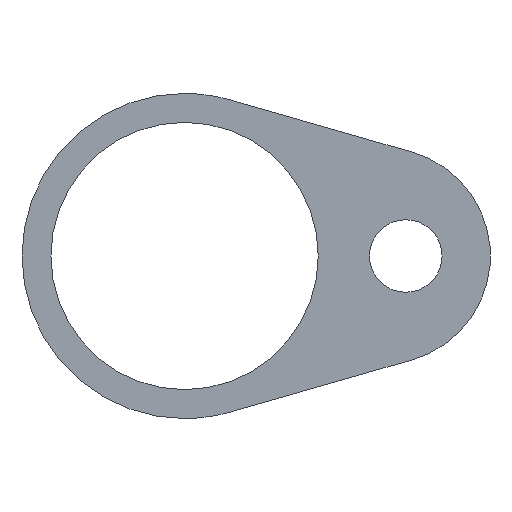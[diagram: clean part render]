
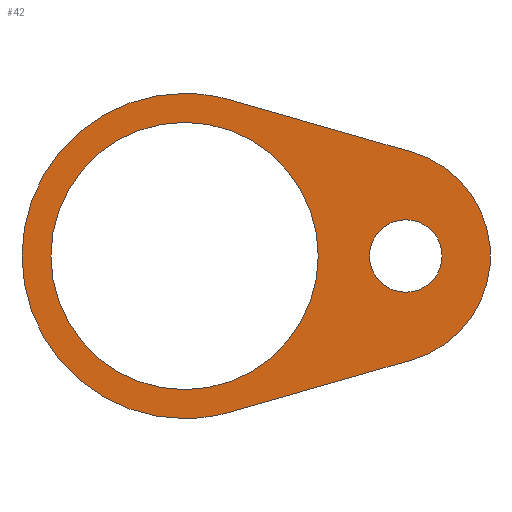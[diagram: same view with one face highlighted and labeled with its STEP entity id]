
A CAD part, front view. The second image highlights one B-rep face of the part: STEP entity #42.
In plain terms, the highlighted planar face has unit normal (0, -1, 0).
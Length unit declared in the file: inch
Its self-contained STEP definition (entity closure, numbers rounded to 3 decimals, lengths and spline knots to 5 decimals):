
#5 = AXIS2_PLACEMENT_3D ( 'NONE', #183, #159, #164 ) ;
#7 = AXIS2_PLACEMENT_3D ( 'NONE', #211, #147, #145 ) ;
#16 = EDGE_CURVE ( 'NONE', #94, #95, #425, .T. ) ;
#21 = EDGE_CURVE ( 'NONE', #95, #93, #418, .T. ) ;
#23 = EDGE_CURVE ( 'NONE', #90, #96, #431, .T. ) ;
#26 = AXIS2_PLACEMENT_3D ( 'NONE', #79, #77, #76 ) ;
#42 = ADVANCED_FACE ( 'NONE', ( #387, #386, #378 ), #265, .F. ) ;
#49 = CIRCLE ( 'NONE', #5, 0.203 ) ;
#56 = LINE ( 'NONE', #144, #57 ) ;
#57 = VECTOR ( 'NONE', #143, 39.37008 ) ;
#60 = CIRCLE ( 'NONE', #7, 0.91 ) ;
#73 = CARTESIAN_POINT ( 'NONE',  ( 0., 0., 0. ) ) ;
#76 = DIRECTION ( 'NONE',  ( 0., 0., 1. ) ) ;
#77 = DIRECTION ( 'NONE',  ( 0., 1., 0. ) ) ;
#79 = CARTESIAN_POINT ( 'NONE',  ( 0., 0., 0. ) ) ;
#90 = VERTEX_POINT ( 'NONE', #201 ) ;
#93 = VERTEX_POINT ( 'NONE', #170 ) ;
#94 = VERTEX_POINT ( 'NONE', #132 ) ;
#95 = VERTEX_POINT ( 'NONE', #266 ) ;
#96 = VERTEX_POINT ( 'NONE', #150 ) ;
#97 = VERTEX_POINT ( 'NONE', #154 ) ;
#103 = VERTEX_POINT ( 'NONE', #118 ) ;
#107 = VERTEX_POINT ( 'NONE', #222 ) ;
#108 = VERTEX_POINT ( 'NONE', #252 ) ;
#109 = VERTEX_POINT ( 'NONE', #126 ) ;
#115 = DIRECTION ( 'NONE',  ( 0., 1., 0. ) ) ;
#118 = CARTESIAN_POINT ( 'NONE',  ( 1.238, 0., 0.203 ) ) ;
#126 = CARTESIAN_POINT ( 'NONE',  ( 0., 0., -0.74803 ) ) ;
#129 = DIRECTION ( 'NONE',  ( 0., 1., 0. ) ) ;
#132 = CARTESIAN_POINT ( 'NONE',  ( 0., 0., -0.91 ) ) ;
#137 = DIRECTION ( 'NONE',  ( 0., 1., 0. ) ) ;
#138 = DIRECTION ( 'NONE',  ( 0., 0., 1. ) ) ;
#142 = CARTESIAN_POINT ( 'NONE',  ( 0., 0., 0. ) ) ;
#143 = DIRECTION ( 'NONE',  ( 0.961, 0., -0.276 ) ) ;
#144 = CARTESIAN_POINT ( 'NONE',  ( 0.25083, 0., 0.87475 ) ) ;
#145 = DIRECTION ( 'NONE',  ( 0., 0., 1. ) ) ;
#147 = DIRECTION ( 'NONE',  ( 0., 1., 0. ) ) ;
#150 = CARTESIAN_POINT ( 'NONE',  ( 0.25083, 0., -0.87475 ) ) ;
#151 = DIRECTION ( 'NONE',  ( 0., 0., 1. ) ) ;
#154 = CARTESIAN_POINT ( 'NONE',  ( 1.27329, 0., 0.58156 ) ) ;
#155 = CARTESIAN_POINT ( 'NONE',  ( 0.25083, 0., -0.87475 ) ) ;
#159 = DIRECTION ( 'NONE',  ( 0., 1., 0. ) ) ;
#164 = DIRECTION ( 'NONE',  ( 0., 0., 1. ) ) ;
#170 = CARTESIAN_POINT ( 'NONE',  ( 0.25083, 0., 0.87475 ) ) ;
#171 = CARTESIAN_POINT ( 'NONE',  ( 1.10653, 0., 0. ) ) ;
#176 = DIRECTION ( 'NONE',  ( 0., 1., 0. ) ) ;
#179 = DIRECTION ( 'NONE',  ( 0., 0., 1. ) ) ;
#183 = CARTESIAN_POINT ( 'NONE',  ( 1.238, 0., 0. ) ) ;
#187 = DIRECTION ( 'NONE',  ( 0., 1., 0. ) ) ;
#191 = CARTESIAN_POINT ( 'NONE',  ( 1.238, 0., 0. ) ) ;
#195 = DIRECTION ( 'NONE',  ( 0., 0., 1. ) ) ;
#198 = DIRECTION ( 'NONE',  ( 0., 0., 1. ) ) ;
#201 = CARTESIAN_POINT ( 'NONE',  ( 1.27329, 0., -0.58156 ) ) ;
#211 = CARTESIAN_POINT ( 'NONE',  ( 0., 0., 0. ) ) ;
#217 = DIRECTION ( 'NONE',  ( -0.961, 0., -0.276 ) ) ;
#222 = CARTESIAN_POINT ( 'NONE',  ( 1.238, 0., -0.203 ) ) ;
#226 = DIRECTION ( 'NONE',  ( 0., 0., 1. ) ) ;
#234 = DIRECTION ( 'NONE',  ( 0., 1., 0. ) ) ;
#252 = CARTESIAN_POINT ( 'NONE',  ( 0., 0., 0.74803 ) ) ;
#257 = CARTESIAN_POINT ( 'NONE',  ( 0., 0., 0. ) ) ;
#265 = PLANE ( 'NONE',  #328 ) ;
#266 = CARTESIAN_POINT ( 'NONE',  ( 0., 0., 0.91 ) ) ;
#284 = CARTESIAN_POINT ( 'NONE',  ( 0., 0., 0. ) ) ;
#288 = AXIS2_PLACEMENT_3D ( 'NONE', #171, #129, #198 ) ;
#291 = EDGE_CURVE ( 'NONE', #108, #109, #359, .T. ) ;
#294 = EDGE_CURVE ( 'NONE', #97, #90, #354, .T. ) ;
#303 = EDGE_CURVE ( 'NONE', #109, #108, #391, .T. ) ;
#305 = AXIS2_PLACEMENT_3D ( 'NONE', #191, #234, #226 ) ;
#307 = EDGE_CURVE ( 'NONE', #107, #103, #360, .T. ) ;
#313 = AXIS2_PLACEMENT_3D ( 'NONE', #73, #187, #195 ) ;
#321 = AXIS2_PLACEMENT_3D ( 'NONE', #142, #137, #179 ) ;
#328 = AXIS2_PLACEMENT_3D ( 'NONE', #284, #115, #151 ) ;
#333 = AXIS2_PLACEMENT_3D ( 'NONE', #257, #176, #138 ) ;
#336 = EDGE_CURVE ( 'NONE', #96, #94, #60, .T. ) ;
#337 = EDGE_CURVE ( 'NONE', #93, #97, #56, .T. ) ;
#338 = EDGE_CURVE ( 'NONE', #103, #107, #49, .T. ) ;
#354 = CIRCLE ( 'NONE', #288, 0.605 ) ;
#359 = CIRCLE ( 'NONE', #333, 0.74803 ) ;
#360 = CIRCLE ( 'NONE', #305, 0.203 ) ;
#378 = FACE_BOUND ( 'NONE', #441, .T. ) ;
#386 = FACE_OUTER_BOUND ( 'NONE', #443, .T. ) ;
#387 = FACE_BOUND ( 'NONE', #440, .T. ) ;
#391 = CIRCLE ( 'NONE', #321, 0.74803 ) ;
#417 = VECTOR ( 'NONE', #217, 39.37008 ) ;
#418 = CIRCLE ( 'NONE', #313, 0.91 ) ;
#425 = CIRCLE ( 'NONE', #26, 0.91 ) ;
#431 = LINE ( 'NONE', #155, #417 ) ;
#440 = EDGE_LOOP ( 'NONE', ( #482, #483 ) ) ;
#441 = EDGE_LOOP ( 'NONE', ( #490, #491 ) ) ;
#443 = EDGE_LOOP ( 'NONE', ( #484, #485, #486, #487, #488, #489 ) ) ;
#482 = ORIENTED_EDGE ( 'NONE', *, *, #303, .T. ) ;
#483 = ORIENTED_EDGE ( 'NONE', *, *, #291, .T. ) ;
#484 = ORIENTED_EDGE ( 'NONE', *, *, #336, .F. ) ;
#485 = ORIENTED_EDGE ( 'NONE', *, *, #23, .F. ) ;
#486 = ORIENTED_EDGE ( 'NONE', *, *, #294, .F. ) ;
#487 = ORIENTED_EDGE ( 'NONE', *, *, #337, .F. ) ;
#488 = ORIENTED_EDGE ( 'NONE', *, *, #21, .F. ) ;
#489 = ORIENTED_EDGE ( 'NONE', *, *, #16, .F. ) ;
#490 = ORIENTED_EDGE ( 'NONE', *, *, #307, .T. ) ;
#491 = ORIENTED_EDGE ( 'NONE', *, *, #338, .T. ) ;
